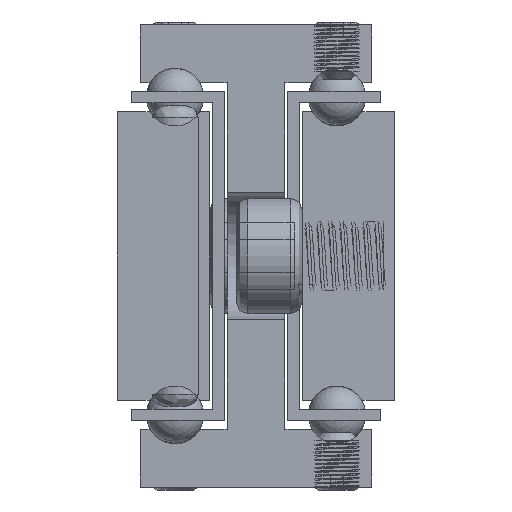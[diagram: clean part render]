
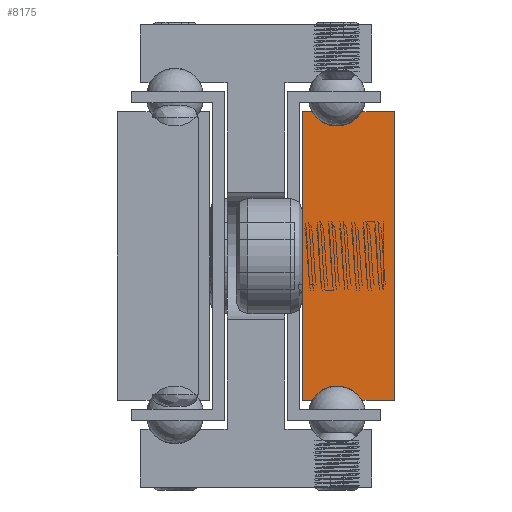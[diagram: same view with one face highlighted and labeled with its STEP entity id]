
A CAD part, front view. The second image highlights one B-rep face of the part: STEP entity #8175.
In plain terms, the highlighted planar face has unit normal (0, -1, 0).
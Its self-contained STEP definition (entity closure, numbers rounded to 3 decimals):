
#482=LINE('',#11472,#1220);
#485=LINE('',#11478,#1223);
#489=LINE('',#11490,#1227);
#492=LINE('',#11496,#1230);
#495=LINE('',#11502,#1233);
#499=LINE('',#11512,#1237);
#1220=VECTOR('',#9432,1.);
#1223=VECTOR('',#9437,1.);
#1227=VECTOR('',#9449,1.);
#1230=VECTOR('',#9454,1.);
#1233=VECTOR('',#9459,1.);
#1237=VECTOR('',#9471,1.);
#1963=PLANE('',#8769);
#2465=FACE_OUTER_BOUND('',#2989,.T.);
#2989=EDGE_LOOP('',(#5888,#5889,#5890,#5891,#5892,#5893,#5894,#5895));
#3657=CIRCLE('',#8760,2.5);
#3659=CIRCLE('',#8766,2.5);
#3860=VERTEX_POINT('',#11469);
#3861=VERTEX_POINT('',#11471);
#3863=VERTEX_POINT('',#11477);
#3865=VERTEX_POINT('',#11483);
#3867=VERTEX_POINT('',#11489);
#3869=VERTEX_POINT('',#11495);
#3871=VERTEX_POINT('',#11501);
#3873=VERTEX_POINT('',#11507);
#4706=EDGE_CURVE('',#3861,#3860,#482,.T.);
#4709=EDGE_CURVE('',#3863,#3861,#485,.T.);
#4712=EDGE_CURVE('',#3865,#3863,#3657,.T.);
#4715=EDGE_CURVE('',#3867,#3865,#489,.T.);
#4718=EDGE_CURVE('',#3869,#3867,#492,.T.);
#4721=EDGE_CURVE('',#3871,#3869,#495,.T.);
#4724=EDGE_CURVE('',#3873,#3871,#3659,.T.);
#4727=EDGE_CURVE('',#3860,#3873,#499,.T.);
#5888=ORIENTED_EDGE('',*,*,#4727,.T.);
#5889=ORIENTED_EDGE('',*,*,#4724,.T.);
#5890=ORIENTED_EDGE('',*,*,#4721,.T.);
#5891=ORIENTED_EDGE('',*,*,#4718,.T.);
#5892=ORIENTED_EDGE('',*,*,#4715,.T.);
#5893=ORIENTED_EDGE('',*,*,#4712,.T.);
#5894=ORIENTED_EDGE('',*,*,#4709,.T.);
#5895=ORIENTED_EDGE('',*,*,#4706,.T.);
#8175=ADVANCED_FACE('',(#2465),#1963,.T.);
#8760=AXIS2_PLACEMENT_3D('',#11484,#9443,#9444);
#8766=AXIS2_PLACEMENT_3D('',#11508,#9465,#9466);
#8769=AXIS2_PLACEMENT_3D('',#11514,#9474,#9475);
#9432=DIRECTION('',(0.,0.,-1.));
#9437=DIRECTION('',(-1.,0.,0.));
#9443=DIRECTION('center_axis',(0.,1.,0.));
#9444=DIRECTION('ref_axis',(-0.866,0.,-0.5));
#9449=DIRECTION('',(-1.,0.,0.));
#9454=DIRECTION('',(0.,0.,1.));
#9459=DIRECTION('',(1.,0.,0.));
#9465=DIRECTION('center_axis',(0.,1.,0.));
#9466=DIRECTION('ref_axis',(0.866,0.,0.5));
#9471=DIRECTION('',(1.,0.,0.));
#9474=DIRECTION('center_axis',(0.,-1.,0.));
#9475=DIRECTION('ref_axis',(1.,0.,0.));
#11469=CARTESIAN_POINT('',(2797.505,929.133,287.5));
#11471=CARTESIAN_POINT('',(2797.505,929.133,312.5));
#11472=CARTESIAN_POINT('',(2797.505,929.133,287.5));
#11477=CARTESIAN_POINT('',(2798.34,929.133,312.5));
#11478=CARTESIAN_POINT('',(2797.505,929.133,312.5));
#11483=CARTESIAN_POINT('',(2802.67,929.133,312.5));
#11484=CARTESIAN_POINT('Origin',(2800.505,929.133,313.75));
#11489=CARTESIAN_POINT('',(2805.505,929.133,312.5));
#11490=CARTESIAN_POINT('',(2802.67,929.133,312.5));
#11495=CARTESIAN_POINT('',(2805.505,929.133,287.5));
#11496=CARTESIAN_POINT('',(2805.505,929.133,312.5));
#11501=CARTESIAN_POINT('',(2802.67,929.133,287.5));
#11502=CARTESIAN_POINT('',(2805.505,929.133,287.5));
#11507=CARTESIAN_POINT('',(2798.34,929.133,287.5));
#11508=CARTESIAN_POINT('Origin',(2800.505,929.133,286.25));
#11512=CARTESIAN_POINT('',(2798.34,929.133,287.5));
#11514=CARTESIAN_POINT('Origin',(2801.517,929.133,300.));
